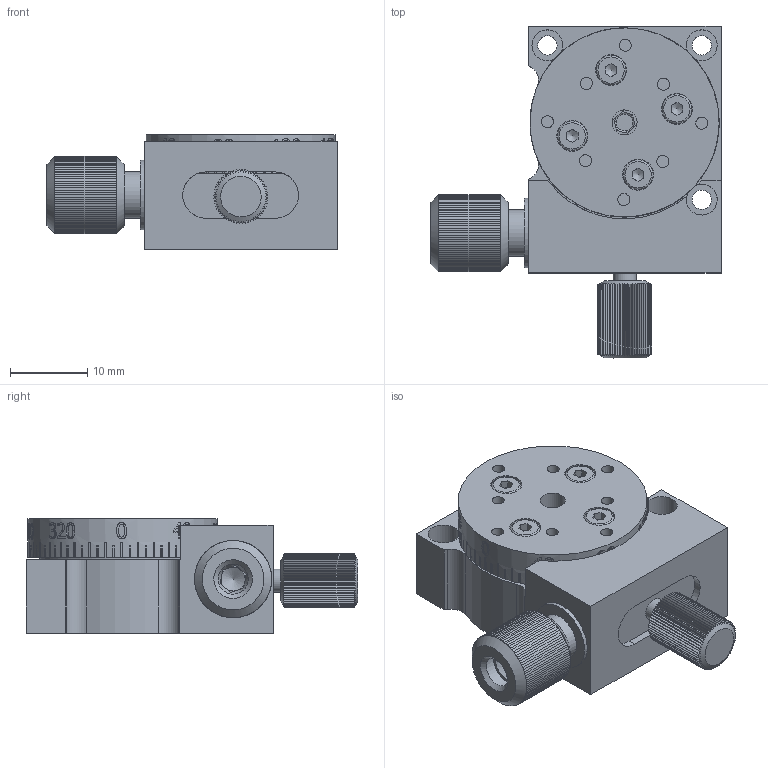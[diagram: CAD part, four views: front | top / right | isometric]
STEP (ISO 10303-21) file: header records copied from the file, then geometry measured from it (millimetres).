
FILE_DESCRIPTION(/* description */ (''),/* implementation_level */ '2;1');
FILE_NAME(/* name */ 'U:\KONSTRUKTORIAI\DOKUMENTACIJA\7\7R128\STEP\7R128 SB.stp',/* time_stamp */ '2018-06-11T15:20:19+03:00',/* author */ ('dsgn32'),/* organization */ (''),/* preprocessor_version */ 'ST-DEVELOPER v15.2',/* originating_system */ 'Autodesk Inventor 2014',/* authorisation */ '');
FILE_SCHEMA (('AUTOMOTIVE_DESIGN { 1 0 10303 214 3 1 1 }'));
Products named in the file (1): 7R128 SB_Shrinkwrap_1
Bounding box: 37.59 x 43 x 14.8 mm (x, y, z)
Volume: 11142.3 mm3; surface area: 7193.5 mm2
Topology: 1 solids, 10 shells, 1390 faces, 3702 edges, 2389 vertices
Faces by surface type: plane 936, bspline 253, cylinder 169, cone 24, torus 8
Full cylindrical faces by diameter (mm): 1.567 x8, 2 x5, 2.2 x4, 2.459 x2, 2.5 x4, 3 x1, 3.1 x1, 3.242 x1, 3.5 x1, 3.8 x4, 4 x7, 4.5 x1, 5 x2, 5.459 x1, 5.5 x1, 6 x2, 8 x1, 9 x1, 11 x1, 18 x1, 24.5 x1
Entity records: 47598 total; most frequent: CARTESIAN_POINT 15077, ORIENTED_EDGE 7158, DIRECTION 5788, EDGE_CURVE 3579, VERTEX_POINT 2346, LINE 2040, VECTOR 2040, AXIS2_PLACEMENT_3D 1874
